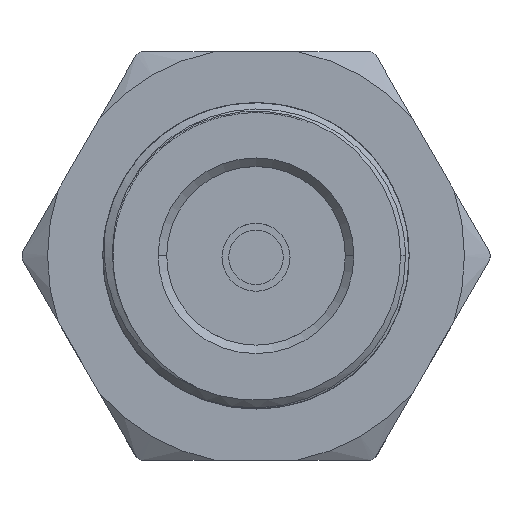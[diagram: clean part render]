
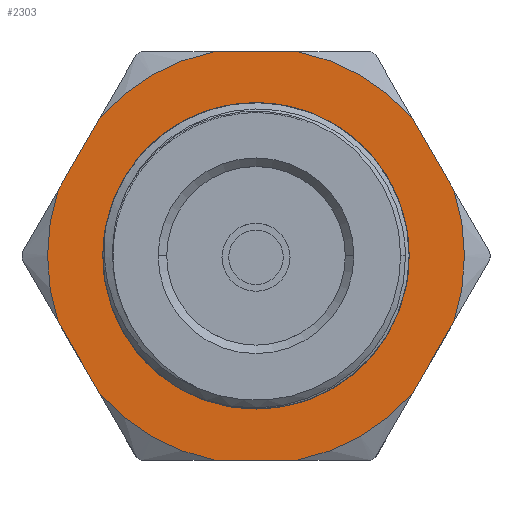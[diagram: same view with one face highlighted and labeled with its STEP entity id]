
A CAD part, top view. The second image highlights one B-rep face of the part: STEP entity #2303.
In plain terms, the highlighted planar face has unit normal (0, 0, 1).
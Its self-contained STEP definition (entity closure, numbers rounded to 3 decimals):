
#1109 = EDGE_LOOP ( 'NONE', ( #10650, #2705, #2706, #2722, #2719, #2710, #2709, #2707, #2712, #1785, #1781, #1782 ) ) ;
#1616 = EDGE_CURVE ( 'NONE', #11615, #11618, #9998, .T. ) ;
#1621 = EDGE_CURVE ( 'NONE', #11617, #11620, #10002, .T. ) ;
#1623 = EDGE_CURVE ( 'NONE', #11608, #11619, #10006, .T. ) ;
#1627 = EDGE_CURVE ( 'NONE', #11625, #11623, #10010, .T. ) ;
#1631 = EDGE_CURVE ( 'NONE', #11629, #11627, #10014, .T. ) ;
#1635 = EDGE_CURVE ( 'NONE', #11633, #11631, #10018, .T. ) ;
#1639 = EDGE_CURVE ( 'NONE', #11637, #11635, #10022, .T. ) ;
#1781 = ORIENTED_EDGE ( 'NONE', *, *, #10807, .T. ) ;
#1782 = ORIENTED_EDGE ( 'NONE', *, *, #1623, .T. ) ;
#1785 = ORIENTED_EDGE ( 'NONE', *, *, #1627, .T. ) ;
#2303 = ADVANCED_FACE ( 'NONE', ( #5676, #5678 ), #5679, .F. ) ;
#2705 = ORIENTED_EDGE ( 'NONE', *, *, #1621, .T. ) ;
#2706 = ORIENTED_EDGE ( 'NONE', *, *, #10803, .T. ) ;
#2707 = ORIENTED_EDGE ( 'NONE', *, *, #1631, .T. ) ;
#2709 = ORIENTED_EDGE ( 'NONE', *, *, #10805, .T. ) ;
#2710 = ORIENTED_EDGE ( 'NONE', *, *, #1635, .T. ) ;
#2712 = ORIENTED_EDGE ( 'NONE', *, *, #10806, .T. ) ;
#2719 = ORIENTED_EDGE ( 'NONE', *, *, #10804, .T. ) ;
#2722 = ORIENTED_EDGE ( 'NONE', *, *, #1639, .T. ) ;
#2947 = VECTOR ( 'NONE', #5940, 1000. ) ;
#2948 = CIRCLE ( 'NONE', #2949, 9. ) ;
#2949 = AXIS2_PLACEMENT_3D ( 'NONE', #5937, #5938, #5939 ) ;
#2950 = VECTOR ( 'NONE', #5943, 1000. ) ;
#2951 = VECTOR ( 'NONE', #6915, 1000. ) ;
#2952 = VECTOR ( 'NONE', #3393, 1000. ) ;
#2953 = VECTOR ( 'NONE', #3396, 1000. ) ;
#2954 = VECTOR ( 'NONE', #3399, 1000. ) ;
#3391 = LINE ( 'NONE', #3392, #2952 ) ;
#3392 = CARTESIAN_POINT ( 'NONE',  ( -12., 6.928, 0. ) ) ;
#3393 = DIRECTION ( 'NONE',  ( 0., -1., 0. ) ) ;
#3394 = LINE ( 'NONE', #3395, #2953 ) ;
#3395 = CARTESIAN_POINT ( 'NONE',  ( -12., -6.928, 0. ) ) ;
#3396 = DIRECTION ( 'NONE',  ( 0.866, -0.5, 0. ) ) ;
#3397 = LINE ( 'NONE', #3398, #2954 ) ;
#3398 = CARTESIAN_POINT ( 'NONE',  ( 0., -13.856, 0. ) ) ;
#3399 = DIRECTION ( 'NONE',  ( 0.866, 0.5, 0. ) ) ;
#4564 = CARTESIAN_POINT ( 'NONE',  ( 8.132, -9.161, 0. ) ) ;
#4571 = CARTESIAN_POINT ( 'NONE',  ( -9., 0., 0. ) ) ;
#4573 = CARTESIAN_POINT ( 'NONE',  ( 12., 2.462, 0. ) ) ;
#4574 = CARTESIAN_POINT ( 'NONE',  ( 9., 0., 0. ) ) ;
#4575 = CARTESIAN_POINT ( 'NONE',  ( 12., -2.462, 0. ) ) ;
#4576 = CARTESIAN_POINT ( 'NONE',  ( 8.132, 9.161, 0. ) ) ;
#4579 = CARTESIAN_POINT ( 'NONE',  ( 3.868, -11.623, 0. ) ) ;
#4581 = CARTESIAN_POINT ( 'NONE',  ( -3.868, -11.623, 0. ) ) ;
#4583 = CARTESIAN_POINT ( 'NONE',  ( -8.132, -9.161, 0. ) ) ;
#4585 = CARTESIAN_POINT ( 'NONE',  ( -12., -2.462, 0. ) ) ;
#4587 = CARTESIAN_POINT ( 'NONE',  ( -12., 2.462, 0. ) ) ;
#4589 = CARTESIAN_POINT ( 'NONE',  ( -8.132, 9.161, 0. ) ) ;
#4591 = CARTESIAN_POINT ( 'NONE',  ( -3.868, 11.623, 0. ) ) ;
#4593 = CARTESIAN_POINT ( 'NONE',  ( 3.868, 11.623, 0. ) ) ;
#4874 = CARTESIAN_POINT ( 'NONE',  ( 0., 0., 0. ) ) ;
#4875 = DIRECTION ( 'NONE',  ( 0., 0., 1. ) ) ;
#4876 = DIRECTION ( 'NONE',  ( 1., 0., 0. ) ) ;
#4892 = CARTESIAN_POINT ( 'NONE',  ( 0., 0., 0. ) ) ;
#4893 = DIRECTION ( 'NONE',  ( 0., 0., 1. ) ) ;
#4894 = DIRECTION ( 'NONE',  ( 1., 0., 0. ) ) ;
#4901 = CARTESIAN_POINT ( 'NONE',  ( 0., 0., 0. ) ) ;
#4902 = DIRECTION ( 'NONE',  ( 0., 0., 1. ) ) ;
#4903 = DIRECTION ( 'NONE',  ( 1., 0., 0. ) ) ;
#4917 = CARTESIAN_POINT ( 'NONE',  ( 0., 0., 0. ) ) ;
#4918 = DIRECTION ( 'NONE',  ( 0., 0., 1. ) ) ;
#4919 = DIRECTION ( 'NONE',  ( 1., 0., 0. ) ) ;
#4933 = CARTESIAN_POINT ( 'NONE',  ( 0., 0., 0. ) ) ;
#4934 = DIRECTION ( 'NONE',  ( 0., 0., 1. ) ) ;
#4935 = DIRECTION ( 'NONE',  ( 1., 0., 0. ) ) ;
#4951 = CARTESIAN_POINT ( 'NONE',  ( 0., 0., 0. ) ) ;
#4952 = DIRECTION ( 'NONE',  ( 0., 0., 1. ) ) ;
#4953 = DIRECTION ( 'NONE',  ( 1., 0., 0. ) ) ;
#4969 = CARTESIAN_POINT ( 'NONE',  ( 0., 0., 0. ) ) ;
#4970 = DIRECTION ( 'NONE',  ( 0., 0., 1. ) ) ;
#4971 = DIRECTION ( 'NONE',  ( 1., 0., 0. ) ) ;
#5674 = DIRECTION ( 'NONE',  ( 0., 0., -1. ) ) ;
#5675 = CARTESIAN_POINT ( 'NONE',  ( 0., 12.25, 0. ) ) ;
#5676 = FACE_BOUND ( 'NONE', #10183, .T. ) ;
#5678 = FACE_OUTER_BOUND ( 'NONE', #1109, .T. ) ;
#5679 = PLANE ( 'NONE',  #10062 ) ;
#5681 = DIRECTION ( 'NONE',  ( -1., 0., 0. ) ) ;
#5917 = CARTESIAN_POINT ( 'NONE',  ( 12., -6.928, 0. ) ) ;
#5926 = LINE ( 'NONE', #5917, #2947 ) ;
#5937 = CARTESIAN_POINT ( 'NONE',  ( 0., 0., 0. ) ) ;
#5938 = DIRECTION ( 'NONE',  ( 0., 0., 1. ) ) ;
#5939 = DIRECTION ( 'NONE',  ( 1., 0., 0. ) ) ;
#5940 = DIRECTION ( 'NONE',  ( 0., 1., 0. ) ) ;
#5941 = LINE ( 'NONE', #5942, #2950 ) ;
#5942 = CARTESIAN_POINT ( 'NONE',  ( 12., 6.928, 0. ) ) ;
#5943 = DIRECTION ( 'NONE',  ( -0.866, 0.5, 0. ) ) ;
#5944 = LINE ( 'NONE', #7443, #2951 ) ;
#6915 = DIRECTION ( 'NONE',  ( -0.866, -0.5, 0. ) ) ;
#7443 = CARTESIAN_POINT ( 'NONE',  ( 0., 13.856, 0. ) ) ;
#9998 = CIRCLE ( 'NONE', #10001, 9. ) ;
#10001 = AXIS2_PLACEMENT_3D ( 'NONE', #4874, #4875, #4876 ) ;
#10002 = CIRCLE ( 'NONE', #10005, 12.25 ) ;
#10004 = AXIS2_PLACEMENT_3D ( 'NONE', #4901, #4902, #4903 ) ;
#10005 = AXIS2_PLACEMENT_3D ( 'NONE', #4892, #4893, #4894 ) ;
#10006 = CIRCLE ( 'NONE', #10004, 12.25 ) ;
#10007 = AXIS2_PLACEMENT_3D ( 'NONE', #4917, #4918, #4919 ) ;
#10010 = CIRCLE ( 'NONE', #10007, 12.25 ) ;
#10011 = AXIS2_PLACEMENT_3D ( 'NONE', #4933, #4934, #4935 ) ;
#10014 = CIRCLE ( 'NONE', #10011, 12.25 ) ;
#10015 = AXIS2_PLACEMENT_3D ( 'NONE', #4951, #4952, #4953 ) ;
#10018 = CIRCLE ( 'NONE', #10015, 12.25 ) ;
#10019 = AXIS2_PLACEMENT_3D ( 'NONE', #4969, #4970, #4971 ) ;
#10022 = CIRCLE ( 'NONE', #10019, 12.25 ) ;
#10062 = AXIS2_PLACEMENT_3D ( 'NONE', #5675, #5674, #5681 ) ;
#10183 = EDGE_LOOP ( 'NONE', ( #10651, #10652 ) ) ;
#10650 = ORIENTED_EDGE ( 'NONE', *, *, #10802, .T. ) ;
#10651 = ORIENTED_EDGE ( 'NONE', *, *, #10801, .F. ) ;
#10652 = ORIENTED_EDGE ( 'NONE', *, *, #1616, .F. ) ;
#10801 = EDGE_CURVE ( 'NONE', #11618, #11615, #2948, .T. ) ;
#10802 = EDGE_CURVE ( 'NONE', #11619, #11617, #5926, .T. ) ;
#10803 = EDGE_CURVE ( 'NONE', #11620, #11637, #5941, .T. ) ;
#10804 = EDGE_CURVE ( 'NONE', #11635, #11633, #5944, .T. ) ;
#10805 = EDGE_CURVE ( 'NONE', #11631, #11629, #3391, .T. ) ;
#10806 = EDGE_CURVE ( 'NONE', #11627, #11625, #3394, .T. ) ;
#10807 = EDGE_CURVE ( 'NONE', #11623, #11608, #3397, .T. ) ;
#11608 = VERTEX_POINT ( 'NONE', #4564 ) ;
#11615 = VERTEX_POINT ( 'NONE', #4571 ) ;
#11617 = VERTEX_POINT ( 'NONE', #4573 ) ;
#11618 = VERTEX_POINT ( 'NONE', #4574 ) ;
#11619 = VERTEX_POINT ( 'NONE', #4575 ) ;
#11620 = VERTEX_POINT ( 'NONE', #4576 ) ;
#11623 = VERTEX_POINT ( 'NONE', #4579 ) ;
#11625 = VERTEX_POINT ( 'NONE', #4581 ) ;
#11627 = VERTEX_POINT ( 'NONE', #4583 ) ;
#11629 = VERTEX_POINT ( 'NONE', #4585 ) ;
#11631 = VERTEX_POINT ( 'NONE', #4587 ) ;
#11633 = VERTEX_POINT ( 'NONE', #4589 ) ;
#11635 = VERTEX_POINT ( 'NONE', #4591 ) ;
#11637 = VERTEX_POINT ( 'NONE', #4593 ) ;
